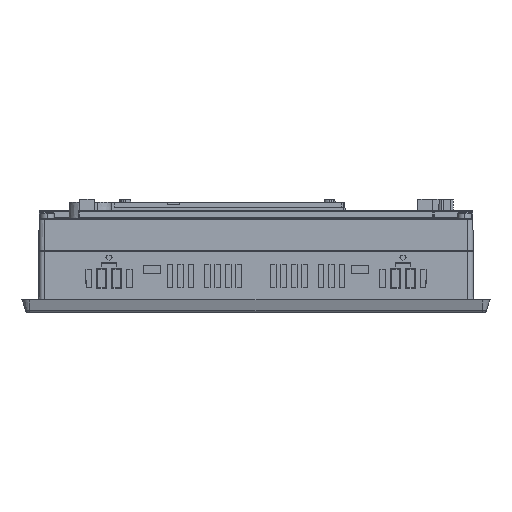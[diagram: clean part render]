
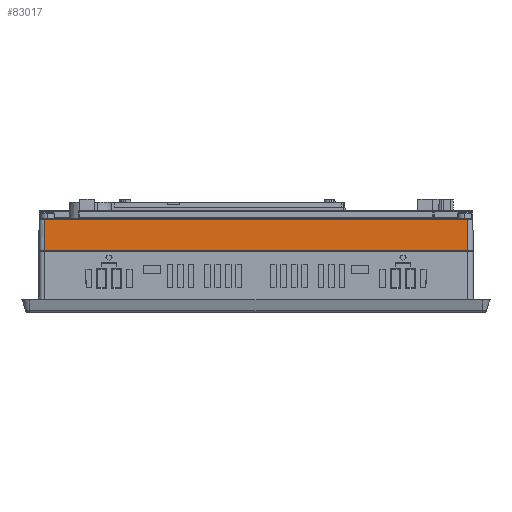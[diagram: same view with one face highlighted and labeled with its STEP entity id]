
A CAD part, left-side view. The second image highlights one B-rep face of the part: STEP entity #83017.
In plain terms, the highlighted planar face has unit normal (-1, 0, 0.009).
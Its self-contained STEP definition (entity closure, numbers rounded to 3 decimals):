
#82973 = VERTEX_POINT ( 'NONE', #223457 ) ;
#82976 = ORIENTED_EDGE ( 'NONE', *, *, #82979, .T. ) ;
#82979 = EDGE_CURVE ( 'NONE', #82973, #83029, #223456, .T. ) ;
#83017 = ADVANCED_FACE ( 'NONE', ( #223504 ), #223503, .T. ) ;
#83022 = EDGE_LOOP ( 'NONE', ( #83024, #83163, #83169, #82976 ) ) ;
#83024 = ORIENTED_EDGE ( 'NONE', *, *, #83026, .T. ) ;
#83026 = EDGE_CURVE ( 'NONE', #83029, #83032, #223498, .T. ) ;
#83029 = VERTEX_POINT ( 'NONE', #223494 ) ;
#83032 = VERTEX_POINT ( 'NONE', #223493 ) ;
#83163 = ORIENTED_EDGE ( 'NONE', *, *, #83165, .F. ) ;
#83165 = EDGE_CURVE ( 'NONE', #83167, #83032, #222767, .T. ) ;
#83167 = VERTEX_POINT ( 'NONE', #223599 ) ;
#83169 = ORIENTED_EDGE ( 'NONE', *, *, #83171, .F. ) ;
#83171 = EDGE_CURVE ( 'NONE', #82973, #83167, #223598, .T. ) ;
#222767 = LINE ( 'NONE', #222774, #223037 ) ;
#222774 = CARTESIAN_POINT ( 'NONE',  ( -4894.464, 141.403, -526124.531 ) ) ;
#223037 = VECTOR ( 'NONE', #223295, 1000. ) ;
#223295 = DIRECTION ( 'NONE',  ( 0.009, 0., 1. ) ) ;
#223453 = DIRECTION ( 'NONE',  ( 0.009, 0., 1. ) ) ;
#223454 = VECTOR ( 'NONE', #223453, 1000. ) ;
#223455 = CARTESIAN_POINT ( 'NONE',  ( -303.242, -80.097, -22.6 ) ) ;
#223456 = LINE ( 'NONE', #223455, #223454 ) ;
#223457 = CARTESIAN_POINT ( 'NONE',  ( -303.227, -80.097, -20.8 ) ) ;
#223493 = CARTESIAN_POINT ( 'NONE',  ( -303.084, 141.403, -4.496 ) ) ;
#223494 = CARTESIAN_POINT ( 'NONE',  ( -303.084, -80.097, -4.496 ) ) ;
#223495 = DIRECTION ( 'NONE',  ( 0., 1., 0. ) ) ;
#223496 = VECTOR ( 'NONE', #223495, 1000. ) ;
#223497 = CARTESIAN_POINT ( 'NONE',  ( -303.084, 141.403, -4.496 ) ) ;
#223498 = LINE ( 'NONE', #223497, #223496 ) ;
#223499 = DIRECTION ( 'NONE',  ( 0.009, 0., 1. ) ) ;
#223500 = DIRECTION ( 'NONE',  ( -1., 0., 0.009 ) ) ;
#223501 = CARTESIAN_POINT ( 'NONE',  ( -303.242, 141.403, -22.6 ) ) ;
#223502 = AXIS2_PLACEMENT_3D ( 'NONE', #223501, #223500, #223499 ) ;
#223503 = PLANE ( 'NONE',  #223502 ) ;
#223504 = FACE_OUTER_BOUND ( 'NONE', #83022, .T. ) ;
#223595 = DIRECTION ( 'NONE',  ( 0., 1., 0. ) ) ;
#223596 = VECTOR ( 'NONE', #223595, 1000. ) ;
#223597 = CARTESIAN_POINT ( 'NONE',  ( -303.227, 141.403, -20.8 ) ) ;
#223598 = LINE ( 'NONE', #223597, #223596 ) ;
#223599 = CARTESIAN_POINT ( 'NONE',  ( -303.227, 141.403, -20.8 ) ) ;
